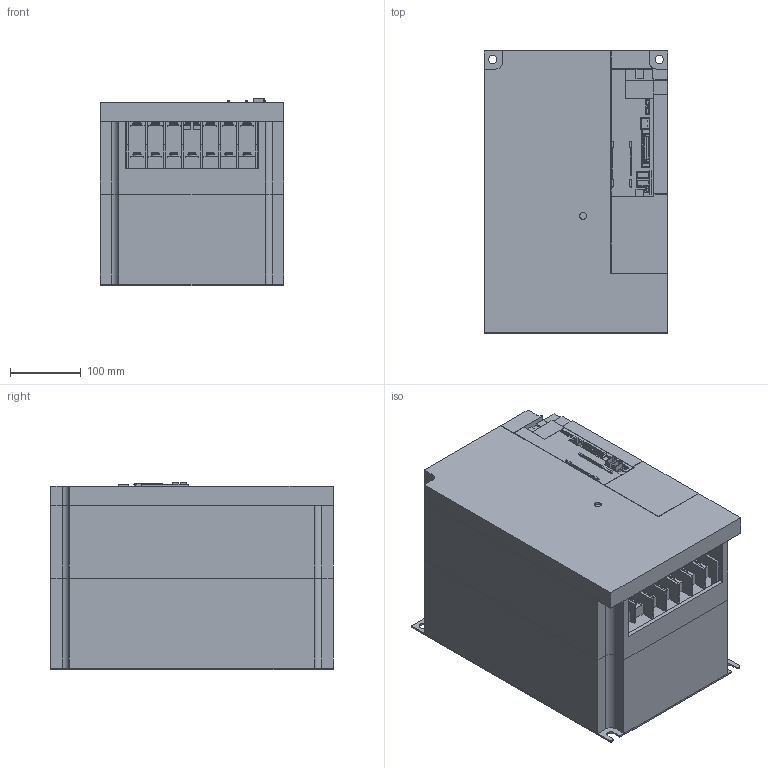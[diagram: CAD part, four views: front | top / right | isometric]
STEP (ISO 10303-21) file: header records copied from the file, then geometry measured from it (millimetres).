
FILE_DESCRIPTION((''),'2;1');
FILE_NAME('MR-J3-11KARJA_ASM','2012-06-27T',('ES20962'),(''),'PRO/ENGINEER BY PARAMETRIC TECHNOLOGY CORPORATION, 2010160','PRO/ENGINEER BY PARAMETRIC TECHNOLOGY CORPORATION, 2010160','');
FILE_SCHEMA(('CONFIG_CONTROL_DESIGN'));
Length unit declared in the file: millimetre
Products named in the file (19): J3-11-22K-BASE; J3-11-22K-CASE1; J3-11-22K-CASE2; J3-11-22K-FRONTCOVER; J3-11-22K-FANCOVER; J3-11-55K-SIDECOVER; J3ARJ-FRONTPANEL; J3-LENZ; J3A-CN1; J3A-CN2; J3A-CN3; J3A-CN4; J3A-CN5; J3A-CN6; J3-11-15K-TE; FAN92; SW-PW-P-NA-M6X16; SW-PW-P-NA-M4X8; MR-J3-11KARJA_ASM
Assembly tree (33 placements, depth 2):
  MR-J3-11KARJA_ASM
    J3-11-22K-BASE
    J3-11-22K-CASE1
    J3-11-22K-CASE2
    J3-11-22K-FRONTCOVER
    J3-11-22K-FANCOVER
    J3-11-55K-SIDECOVER
    J3ARJ-FRONTPANEL
    J3-LENZ
    J3A-CN1
    J3A-CN2  x2
    J3A-CN3
    J3A-CN4
    J3A-CN5
    J3A-CN6
    J3-11-15K-TE
    FAN92  x2
    SW-PW-P-NA-M6X16  x13
    SW-PW-P-NA-M4X8  x2
Bounding box: 260 x 400 x 266 mm (x, y, z)
Volume: 14408895.8 mm3; surface area: 1556989.4 mm2
Topology: 35 solids, 35 shells, 1258 faces, 3349 edges, 2190 vertices
Faces by surface type: plane 818, cylinder 350, cone 30, torus 30, sphere 30
Entity records: 33582 total; most frequent: CARTESIAN_POINT 5823, ORIENTED_EDGE 5714, DIRECTION 5556, EDGE_CURVE 2857, VECTOR 2300, LINE 2300, VERTEX_POINT 1895, AXIS2_PLACEMENT_3D 1628
